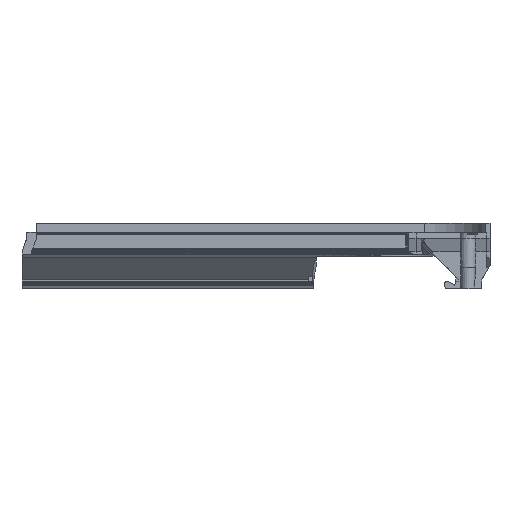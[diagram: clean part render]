
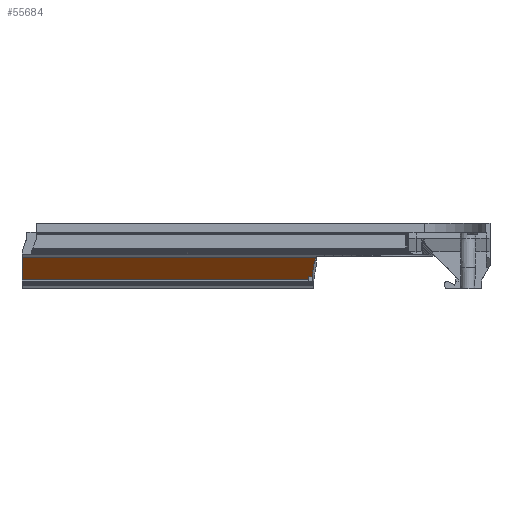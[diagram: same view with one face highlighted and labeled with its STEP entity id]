
A CAD part, front view. The second image highlights one B-rep face of the part: STEP entity #55684.
In plain terms, the highlighted planar face has unit normal (0, -0.707, -0.707).
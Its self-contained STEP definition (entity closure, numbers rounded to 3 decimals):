
#897 = CYLINDRICAL_SURFACE('',#898,35.05);
#898 = AXIS2_PLACEMENT_3D('',#899,#900,#901);
#899 = CARTESIAN_POINT('',(155.95,167.85,-3.));
#900 = DIRECTION('',(0.,0.,1.));
#901 = DIRECTION('',(1.,0.,-0.));
#924 = PLANE('',#925);
#925 = AXIS2_PLACEMENT_3D('',#926,#927,#928);
#926 = CARTESIAN_POINT('',(-126.7,156.995,13.005));
#927 = DIRECTION('',(-0.,-0.777,-0.63));
#928 = DIRECTION('',(0.,-0.63,0.777));
#2652 = EDGE_CURVE('',#2653,#2655,#2657,.T.);
#2653 = VERTEX_POINT('',#2654);
#2654 = CARTESIAN_POINT('',(122.623,156.995,
    13.005));
#2655 = VERTEX_POINT('',#2656);
#2656 = CARTESIAN_POINT('',(0.1,156.995,13.005));
#2657 = SURFACE_CURVE('',#2658,(#2661,#2667),.PCURVE_S1.);
#2658 = B_SPLINE_CURVE_WITH_KNOTS('',1,(#2659,#2660),.UNSPECIFIED.,.F.,
  .F.,(2,2),(0.,1.),.PIECEWISE_BEZIER_KNOTS.);
#2659 = CARTESIAN_POINT('',(126.7,156.995,13.005));
#2660 = CARTESIAN_POINT('',(-126.7,156.995,13.005));
#2661 = PCURVE('',#924,#2662);
#2662 = DEFINITIONAL_REPRESENTATION('',(#2663),#2666);
#2663 = B_SPLINE_CURVE_WITH_KNOTS('',1,(#2664,#2665),.UNSPECIFIED.,.F.,
  .F.,(2,2),(0.,1.),.PIECEWISE_BEZIER_KNOTS.);
#2664 = CARTESIAN_POINT('',(0.,-253.4));
#2665 = CARTESIAN_POINT('',(0.,0.));
#2666 = ( GEOMETRIC_REPRESENTATION_CONTEXT(2) 
PARAMETRIC_REPRESENTATION_CONTEXT() REPRESENTATION_CONTEXT('2D SPACE',''
  ) );
#2667 = PCURVE('',#2668,#2673);
#2668 = PLANE('',#2669);
#2669 = AXIS2_PLACEMENT_3D('',#2670,#2671,#2672);
#2670 = CARTESIAN_POINT('',(-126.7,166.,4.));
#2671 = DIRECTION('',(-0.,-0.707,-0.707));
#2672 = DIRECTION('',(0.,-0.707,0.707));
#2673 = DEFINITIONAL_REPRESENTATION('',(#2674),#2677);
#2674 = B_SPLINE_CURVE_WITH_KNOTS('',1,(#2675,#2676),.UNSPECIFIED.,.F.,
  .F.,(2,2),(0.,1.),.PIECEWISE_BEZIER_KNOTS.);
#2675 = CARTESIAN_POINT('',(12.735,-253.4));
#2676 = CARTESIAN_POINT('',(12.735,0.));
#2677 = ( GEOMETRIC_REPRESENTATION_CONTEXT(2) 
PARAMETRIC_REPRESENTATION_CONTEXT() REPRESENTATION_CONTEXT('2D SPACE',''
  ) );
#2794 = PLANE('',#2795);
#2795 = AXIS2_PLACEMENT_3D('',#2796,#2797,#2798);
#2796 = CARTESIAN_POINT('',(0.1,167.9,8.9));
#2797 = DIRECTION('',(-1.,0.,0.));
#2798 = DIRECTION('',(0.,-1.,0.));
#50692 = PLANE('',#50693);
#50693 = AXIS2_PLACEMENT_3D('',#50694,#50695,#50696);
#50694 = CARTESIAN_POINT('',(156.267,165.,3.));
#50695 = DIRECTION('',(0.,-1.,0.));
#50696 = DIRECTION('',(0.,0.,1.));
#50718 = PLANE('',#50719);
#50719 = AXIS2_PLACEMENT_3D('',#50720,#50721,#50722);
#50720 = CARTESIAN_POINT('',(119.4,166.3,3.));
#50721 = DIRECTION('',(1.,0.,0.));
#50722 = DIRECTION('',(0.,-0.398,0.918));
#50743 = PLANE('',#50744);
#50744 = AXIS2_PLACEMENT_3D('',#50745,#50746,#50747);
#50745 = CARTESIAN_POINT('',(168.,166.,2.8));
#50746 = DIRECTION('',(0.,-1.,0.));
#50747 = DIRECTION('',(-1.,0.,0.));
#50759 = VERTEX_POINT('',#50760);
#50760 = CARTESIAN_POINT('',(119.4,165.,5.));
#50783 = VERTEX_POINT('',#50784);
#50784 = CARTESIAN_POINT('',(121.016,165.,5.));
#50803 = EDGE_CURVE('',#50759,#50783,#50804,.T.);
#50804 = SURFACE_CURVE('',#50805,(#50809,#50815),.PCURVE_S1.);
#50805 = LINE('',#50806,#50807);
#50806 = CARTESIAN_POINT('',(14.783,165.,5.));
#50807 = VECTOR('',#50808,1.);
#50808 = DIRECTION('',(1.,0.,-0.));
#50809 = PCURVE('',#50692,#50810);
#50810 = DEFINITIONAL_REPRESENTATION('',(#50811),#50814);
#50811 = B_SPLINE_CURVE_WITH_KNOTS('',1,(#50812,#50813),.UNSPECIFIED.,
  .F.,.F.,(2,2),(104.617,111.617),
  .PIECEWISE_BEZIER_KNOTS.);
#50812 = CARTESIAN_POINT('',(2.,36.867));
#50813 = CARTESIAN_POINT('',(2.,29.867));
#50814 = ( GEOMETRIC_REPRESENTATION_CONTEXT(2) 
PARAMETRIC_REPRESENTATION_CONTEXT() REPRESENTATION_CONTEXT('2D SPACE',''
  ) );
#50815 = PCURVE('',#2668,#50816);
#50816 = DEFINITIONAL_REPRESENTATION('',(#50817),#50820);
#50817 = B_SPLINE_CURVE_WITH_KNOTS('',1,(#50818,#50819),.UNSPECIFIED.,
  .F.,.F.,(2,2),(104.617,111.617),
  .PIECEWISE_BEZIER_KNOTS.);
#50818 = CARTESIAN_POINT('',(1.414,-246.1));
#50819 = CARTESIAN_POINT('',(1.414,-253.1));
#50820 = ( GEOMETRIC_REPRESENTATION_CONTEXT(2) 
PARAMETRIC_REPRESENTATION_CONTEXT() REPRESENTATION_CONTEXT('2D SPACE',''
  ) );
#50828 = VERTEX_POINT('',#50829);
#50829 = CARTESIAN_POINT('',(119.4,166.,4.));
#50848 = EDGE_CURVE('',#50759,#50828,#50849,.T.);
#50849 = SURFACE_CURVE('',#50850,(#50854,#50860),.PCURVE_S1.);
#50850 = LINE('',#50851,#50852);
#50851 = CARTESIAN_POINT('',(119.4,166.325,3.675));
#50852 = VECTOR('',#50853,1.);
#50853 = DIRECTION('',(0.,0.707,-0.707));
#50854 = PCURVE('',#50718,#50855);
#50855 = DEFINITIONAL_REPRESENTATION('',(#50856),#50859);
#50856 = B_SPLINE_CURVE_WITH_KNOTS('',1,(#50857,#50858),.UNSPECIFIED.,
  .F.,.F.,(2,2),(-2.86,-0.46),
  .PIECEWISE_BEZIER_KNOTS.);
#50857 = CARTESIAN_POINT('',(3.27,0.76));
#50858 = CARTESIAN_POINT('',(1.037,-0.122));
#50859 = ( GEOMETRIC_REPRESENTATION_CONTEXT(2) 
PARAMETRIC_REPRESENTATION_CONTEXT() REPRESENTATION_CONTEXT('2D SPACE',''
  ) );
#50860 = PCURVE('',#2668,#50861);
#50861 = DEFINITIONAL_REPRESENTATION('',(#50862),#50865);
#50862 = B_SPLINE_CURVE_WITH_KNOTS('',1,(#50863,#50864),.UNSPECIFIED.,
  .F.,.F.,(2,2),(-2.86,-0.46),
  .PIECEWISE_BEZIER_KNOTS.);
#50863 = CARTESIAN_POINT('',(2.401,-246.1));
#50864 = CARTESIAN_POINT('',(0.,-246.1));
#50865 = ( GEOMETRIC_REPRESENTATION_CONTEXT(2) 
PARAMETRIC_REPRESENTATION_CONTEXT() REPRESENTATION_CONTEXT('2D SPACE',''
  ) );
#50870 = EDGE_CURVE('',#50828,#50871,#50873,.T.);
#50871 = VERTEX_POINT('',#50872);
#50872 = CARTESIAN_POINT('',(0.1,166.,4.));
#50873 = SURFACE_CURVE('',#50874,(#50877,#50883),.PCURVE_S1.);
#50874 = B_SPLINE_CURVE_WITH_KNOTS('',1,(#50875,#50876),.UNSPECIFIED.,
  .F.,.F.,(2,2),(0.,1.),.PIECEWISE_BEZIER_KNOTS.);
#50875 = CARTESIAN_POINT('',(126.7,166.,4.));
#50876 = CARTESIAN_POINT('',(-126.7,166.,4.));
#50877 = PCURVE('',#50743,#50878);
#50878 = DEFINITIONAL_REPRESENTATION('',(#50879),#50882);
#50879 = B_SPLINE_CURVE_WITH_KNOTS('',1,(#50880,#50881),.UNSPECIFIED.,
  .F.,.F.,(2,2),(0.,1.),.PIECEWISE_BEZIER_KNOTS.);
#50880 = CARTESIAN_POINT('',(41.3,-1.2));
#50881 = CARTESIAN_POINT('',(294.7,-1.2));
#50882 = ( GEOMETRIC_REPRESENTATION_CONTEXT(2) 
PARAMETRIC_REPRESENTATION_CONTEXT() REPRESENTATION_CONTEXT('2D SPACE',''
  ) );
#50883 = PCURVE('',#2668,#50884);
#50884 = DEFINITIONAL_REPRESENTATION('',(#50885),#50888);
#50885 = B_SPLINE_CURVE_WITH_KNOTS('',1,(#50886,#50887),.UNSPECIFIED.,
  .F.,.F.,(2,2),(0.,1.),.PIECEWISE_BEZIER_KNOTS.);
#50886 = CARTESIAN_POINT('',(0.,-253.4));
#50887 = CARTESIAN_POINT('',(0.,0.));
#50888 = ( GEOMETRIC_REPRESENTATION_CONTEXT(2) 
PARAMETRIC_REPRESENTATION_CONTEXT() REPRESENTATION_CONTEXT('2D SPACE',''
  ) );
#55664 = EDGE_CURVE('',#2655,#50871,#55665,.T.);
#55665 = SURFACE_CURVE('',#55666,(#55670,#55676),.PCURVE_S1.);
#55666 = LINE('',#55667,#55668);
#55667 = CARTESIAN_POINT('',(0.1,165.25,4.75));
#55668 = VECTOR('',#55669,1.);
#55669 = DIRECTION('',(0.,0.707,-0.707));
#55670 = PCURVE('',#2794,#55671);
#55671 = DEFINITIONAL_REPRESENTATION('',(#55672),#55675);
#55672 = B_SPLINE_CURVE_WITH_KNOTS('',1,(#55673,#55674),.UNSPECIFIED.,
  .F.,.F.,(2,2),(-11.675,1.061),
  .PIECEWISE_BEZIER_KNOTS.);
#55673 = CARTESIAN_POINT('',(10.905,4.105));
#55674 = CARTESIAN_POINT('',(1.9,-4.9));
#55675 = ( GEOMETRIC_REPRESENTATION_CONTEXT(2) 
PARAMETRIC_REPRESENTATION_CONTEXT() REPRESENTATION_CONTEXT('2D SPACE',''
  ) );
#55676 = PCURVE('',#2668,#55677);
#55677 = DEFINITIONAL_REPRESENTATION('',(#55678),#55681);
#55678 = B_SPLINE_CURVE_WITH_KNOTS('',1,(#55679,#55680),.UNSPECIFIED.,
  .F.,.F.,(2,2),(-11.675,1.061),
  .PIECEWISE_BEZIER_KNOTS.);
#55679 = CARTESIAN_POINT('',(12.735,-126.8));
#55680 = CARTESIAN_POINT('',(0.,-126.8));
#55681 = ( GEOMETRIC_REPRESENTATION_CONTEXT(2) 
PARAMETRIC_REPRESENTATION_CONTEXT() REPRESENTATION_CONTEXT('2D SPACE',''
  ) );
#55684 = ADVANCED_FACE('',(#55685),#2668,.T.);
#55685 = FACE_BOUND('',#55686,.T.);
#55686 = EDGE_LOOP('',(#55687,#55688,#55689,#55690,#55715,#55716));
#55687 = ORIENTED_EDGE('',*,*,#50870,.F.);
#55688 = ORIENTED_EDGE('',*,*,#50848,.F.);
#55689 = ORIENTED_EDGE('',*,*,#50803,.T.);
#55690 = ORIENTED_EDGE('',*,*,#55691,.F.);
#55691 = EDGE_CURVE('',#2653,#50783,#55692,.T.);
#55692 = SURFACE_CURVE('',#55693,(#55698,#55705),.PCURVE_S1.);
#55693 = ELLIPSE('',#55694,49.568,35.05);
#55694 = AXIS2_PLACEMENT_3D('',#55695,#55696,#55697);
#55695 = CARTESIAN_POINT('',(155.95,167.85,2.15));
#55696 = DIRECTION('',(-0.,-0.707,-0.707));
#55697 = DIRECTION('',(0.,-0.707,0.707));
#55698 = PCURVE('',#2668,#55699);
#55699 = DEFINITIONAL_REPRESENTATION('',(#55700),#55704);
#55700 = ELLIPSE('',#55701,49.568,35.05);
#55701 = AXIS2_PLACEMENT_2D('',#55702,#55703);
#55702 = CARTESIAN_POINT('',(-2.616,-282.65));
#55703 = DIRECTION('',(1.,0.));
#55704 = ( GEOMETRIC_REPRESENTATION_CONTEXT(2) 
PARAMETRIC_REPRESENTATION_CONTEXT() REPRESENTATION_CONTEXT('2D SPACE',''
  ) );
#55705 = PCURVE('',#897,#55706);
#55706 = DEFINITIONAL_REPRESENTATION('',(#55707),#55714);
#55707 = B_SPLINE_CURVE_WITH_KNOTS('',5,(#55708,#55709,#55710,#55711,
    #55712,#55713),.UNSPECIFIED.,.F.,.F.,(6,6),(1.241,
    1.544),.PIECEWISE_BEZIER_KNOTS.);
#55708 = CARTESIAN_POINT('',(3.471,16.5));
#55709 = CARTESIAN_POINT('',(3.411,14.493));
#55710 = CARTESIAN_POINT('',(3.35,12.433));
#55711 = CARTESIAN_POINT('',(3.29,10.337));
#55712 = CARTESIAN_POINT('',(3.229,8.22));
#55713 = CARTESIAN_POINT('',(3.169,6.099));
#55714 = ( GEOMETRIC_REPRESENTATION_CONTEXT(2) 
PARAMETRIC_REPRESENTATION_CONTEXT() REPRESENTATION_CONTEXT('2D SPACE',''
  ) );
#55715 = ORIENTED_EDGE('',*,*,#2652,.T.);
#55716 = ORIENTED_EDGE('',*,*,#55664,.T.);
